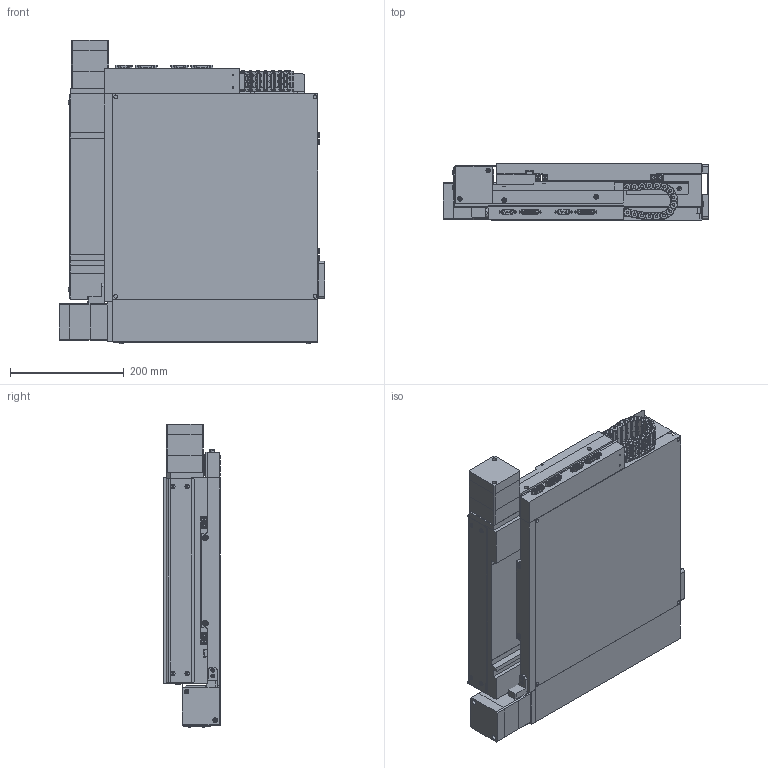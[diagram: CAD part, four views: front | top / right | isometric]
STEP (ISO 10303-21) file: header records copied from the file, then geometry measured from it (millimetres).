
FILE_DESCRIPTION (( 'STEP AP214' ), '1' );
FILE_NAME ('GXY-240-Dual Feedback-EXPORT.STEP', '2025-07-08T14:12:42', ( 'lab' ), ( '' ), 'SwSTEP 2.0', 'SolidWorks 2018', '' );
FILE_SCHEMA (( 'AUTOMOTIVE_DESIGN' ));
Length unit declared in the file: millimetre
Products named in the file (16): 1000019_91294A128; 1000016; 1000003_file_export5; 1000013_file_export40; 1000004_file_export11; 1000020; 1000012_file_export41; 1000006_file_export16; GXY-240-Dual Feedback-EXPORT; 1000007_file_export13; 1000014_file_export53; 1000018; 1000015; 1000002_Dual Loop 240; 1000017; 1000001_Dual Loop 240
Assembly tree (49 placements, depth 2):
  GXY-240-Dual Feedback-EXPORT
    1000001_Dual Loop 240
    1000002_Dual Loop 240
    1000003_file_export5
    1000004_file_export11  x2
    1000006_file_export16  x6
    1000007_file_export13
    1000012_file_export41  x2
    1000013_file_export40  x2
    1000014_file_export53  x8
    1000015  x2
    1000016  x2
    1000017
    1000018
    1000019_91294A128  x4
    1000020  x15
Bounding box: 466 x 99 x 532.14 mm (x, y, z)
Volume: 17512604.6 mm3; surface area: 1898140.3 mm2
Topology: 166 solids, 166 shells, 5671 faces, 13935 edges, 8732 vertices
Faces by surface type: plane 3446, cylinder 1483, cone 382, bspline 340, torus 20
Entity records: 89875 total; most frequent: CARTESIAN_POINT 19775, DIRECTION 13242, ORIENTED_EDGE 12816, EDGE_CURVE 6408, AXIS2_PLACEMENT_3D 4447, VECTOR 4348, LINE 4348, VERTEX_POINT 3960
